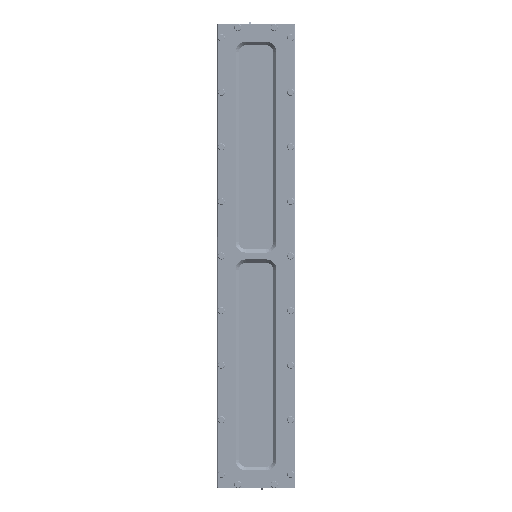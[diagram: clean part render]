
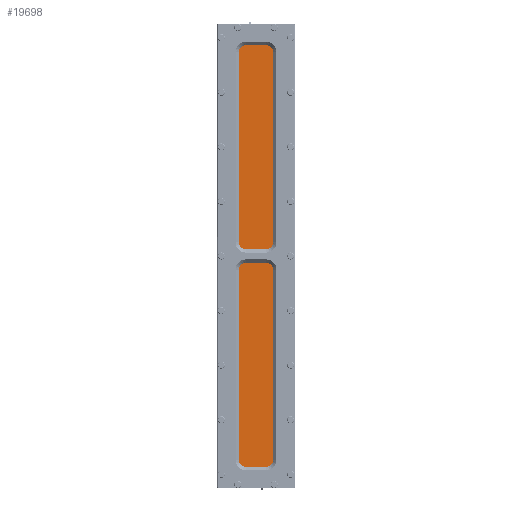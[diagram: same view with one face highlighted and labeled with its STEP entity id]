
A CAD part, front view. The second image highlights one B-rep face of the part: STEP entity #19698.
In plain terms, the highlighted planar face has unit normal (0, -1, 0).
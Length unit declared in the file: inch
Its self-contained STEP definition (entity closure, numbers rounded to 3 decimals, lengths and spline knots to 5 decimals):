
#19350=DIRECTION('',(0.,0.,-1.));
#19351=VECTOR('',#19350,24.09272);
#19352=CARTESIAN_POINT('',(1.4275,0.,12.04636));
#19353=LINE('',#19352,#19351);
#19354=DIRECTION('',(0.707,0.,0.707));
#19355=VECTOR('',#19354,0.0794);
#19356=CARTESIAN_POINT('',(1.37136,0.,-12.1025));
#19357=LINE('',#19356,#19355);
#19358=DIRECTION('',(-1.,0.,0.));
#19359=VECTOR('',#19358,2.74272);
#19360=CARTESIAN_POINT('',(1.37136,0.,-12.1025));
#19361=LINE('',#19360,#19359);
#19362=DIRECTION('',(0.707,0.,-0.707));
#19363=VECTOR('',#19362,0.0794);
#19364=CARTESIAN_POINT('',(-1.4275,0.,-12.04636));
#19365=LINE('',#19364,#19363);
#19366=DIRECTION('',(0.,0.,-1.));
#19367=VECTOR('',#19366,24.09272);
#19368=CARTESIAN_POINT('',(-1.4275,0.,12.04636));
#19369=LINE('',#19368,#19367);
#19370=DIRECTION('',(-0.707,0.,-0.707));
#19371=VECTOR('',#19370,0.0794);
#19372=CARTESIAN_POINT('',(-1.37136,0.,12.1025));
#19373=LINE('',#19372,#19371);
#19374=DIRECTION('',(1.,0.,0.));
#19375=VECTOR('',#19374,2.74272);
#19376=CARTESIAN_POINT('',(-1.37136,0.,12.1025));
#19377=LINE('',#19376,#19375);
#19378=DIRECTION('',(-0.707,0.,0.707));
#19379=VECTOR('',#19378,0.0794);
#19380=CARTESIAN_POINT('',(1.4275,0.,12.04636));
#19381=LINE('',#19380,#19379);
#19534=CARTESIAN_POINT('',(1.4275,0.,12.04636));
#19535=CARTESIAN_POINT('',(1.4275,0.,-12.04636));
#19536=VERTEX_POINT('',#19534);
#19537=VERTEX_POINT('',#19535);
#19542=CARTESIAN_POINT('',(1.37136,0.,12.1025));
#19543=VERTEX_POINT('',#19542);
#19546=CARTESIAN_POINT('',(-1.37136,0.,12.1025));
#19547=VERTEX_POINT('',#19546);
#19552=CARTESIAN_POINT('',(-1.4275,0.,12.04636));
#19553=VERTEX_POINT('',#19552);
#19556=CARTESIAN_POINT('',(-1.4275,0.,-12.04636));
#19557=VERTEX_POINT('',#19556);
#19558=CARTESIAN_POINT('',(-1.37136,0.,-12.1025));
#19559=VERTEX_POINT('',#19558);
#19562=CARTESIAN_POINT('',(1.37136,0.,-12.1025));
#19563=VERTEX_POINT('',#19562);
#19677=CARTESIAN_POINT('',(-1.4375,0.,-12.1125));
#19678=DIRECTION('',(0.,-1.,0.));
#19679=DIRECTION('',(1.,0.,0.));
#19680=AXIS2_PLACEMENT_3D('',#19677,#19678,#19679);
#19681=PLANE('',#19680);
#19683=ORIENTED_EDGE('',*,*,#19682,.T.);
#19684=ORIENTED_EDGE('',*,*,#19656,.F.);
#19685=ORIENTED_EDGE('',*,*,#19668,.T.);
#19687=ORIENTED_EDGE('',*,*,#19686,.F.);
#19689=ORIENTED_EDGE('',*,*,#19688,.F.);
#19691=ORIENTED_EDGE('',*,*,#19690,.F.);
#19693=ORIENTED_EDGE('',*,*,#19692,.T.);
#19695=ORIENTED_EDGE('',*,*,#19694,.F.);
#19696=EDGE_LOOP('',(#19683,#19684,#19685,#19687,#19689,#19691,#19693,#19695));
#19697=FACE_OUTER_BOUND('',#19696,.F.);
#19698=ADVANCED_FACE('',(#19697),#19681,.T.);
#19656=EDGE_CURVE('',#19563,#19537,#19357,.T.);
#19668=EDGE_CURVE('',#19563,#19559,#19361,.T.);
#19682=EDGE_CURVE('',#19536,#19537,#19353,.T.);
#19686=EDGE_CURVE('',#19557,#19559,#19365,.T.);
#19688=EDGE_CURVE('',#19553,#19557,#19369,.T.);
#19690=EDGE_CURVE('',#19547,#19553,#19373,.T.);
#19692=EDGE_CURVE('',#19547,#19543,#19377,.T.);
#19694=EDGE_CURVE('',#19536,#19543,#19381,.T.);
